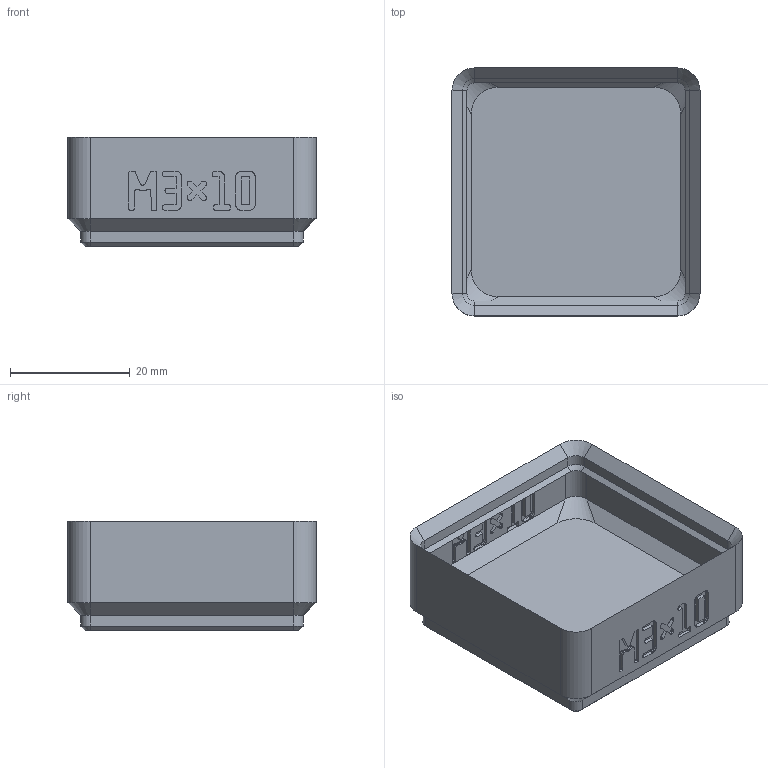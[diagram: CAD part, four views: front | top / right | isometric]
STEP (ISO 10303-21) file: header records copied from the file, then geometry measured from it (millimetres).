
FILE_DESCRIPTION(('Open CASCADE Model'),'2;1');
FILE_NAME('bin_m3x10','2026-11-16T17:21:57',('Author'),('Open CASCADE'), 'Open CASCADE STEP processor 8.0','build123d','Unknown');
FILE_SCHEMA(('AUTOMOTIVE_DESIGN { 1 0 10303 214 1 1 1 1 }'));
Products named in the file (1): bin_m3x10
Bounding box: 41.5 x 41.5 x 18.4 mm (x, y, z)
Volume: 10967.2 mm3; surface area: 8358.9 mm2
Topology: 1 solids, 1 shells, 1055 faces, 3040 edges, 2008 vertices
Faces by surface type: plane 1007, cylinder 24, cone 16, bspline 8
Full cylindrical faces by diameter (mm): 3.2 x4, 6.5 x4
Entity records: 71376 total; most frequent: CARTESIAN_POINT 14356, DIRECTION 9204, LINE 6960, VECTOR 6960, ORIENTED_EDGE 6080, PCURVE 6080, DEFINITIONAL_REPRESENTATION 6080, EDGE_CURVE 3040
